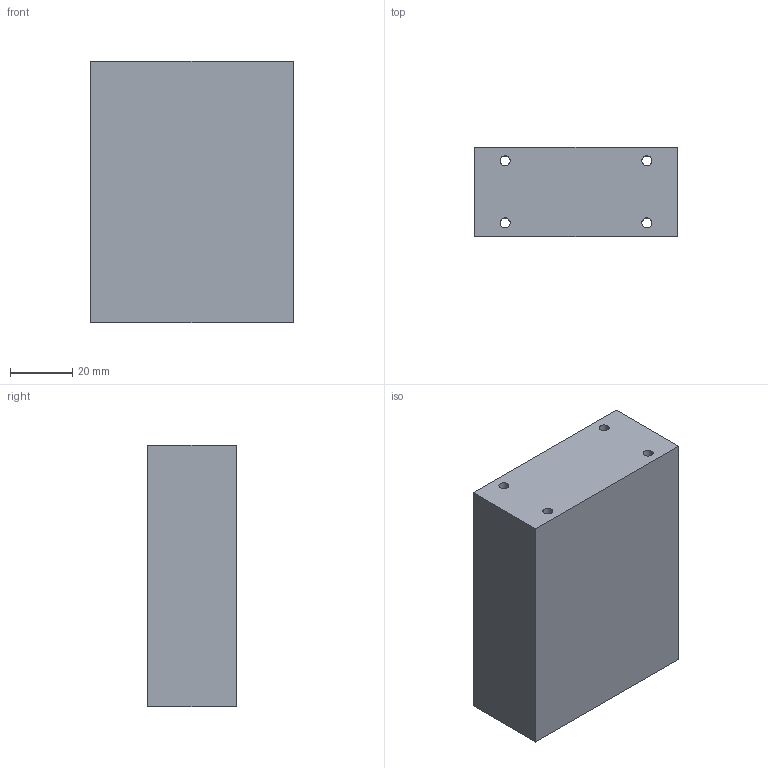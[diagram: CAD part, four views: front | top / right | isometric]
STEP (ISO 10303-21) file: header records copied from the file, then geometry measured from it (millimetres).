
FILE_DESCRIPTION(('Mechanical CAD reference from nasji.com'),'2;1');
FILE_NAME('NASJI.step','',(''),(''),'','NASJI distribution','');
FILE_SCHEMA(('AUTOMOTIVE_DESIGN { 1 0 10303 214 1 1 1 1 }'));
Length unit declared in the file: millimetre
Products named in the file (1): Open CASCADE STEP translator 7.8 8
Bounding box: 65 x 28.5 x 83.8 mm (x, y, z)
Volume: 152543.7 mm3; surface area: 22681.1 mm2
Topology: 1 solids, 1 shells, 10 faces, 24 edges, 16 vertices
Faces by surface type: plane 6, cylinder 4
Full cylindrical faces by diameter (mm): 3.2 x4
Entity records: 658 total; most frequent: CARTESIAN_POINT 147, DIRECTION 94, LINE 56, VECTOR 56, ORIENTED_EDGE 48, PCURVE 48, DEFINITIONAL_REPRESENTATION 48, EDGE_CURVE 24
